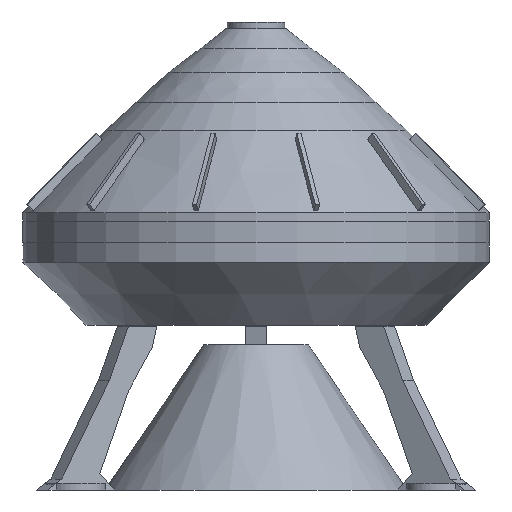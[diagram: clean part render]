
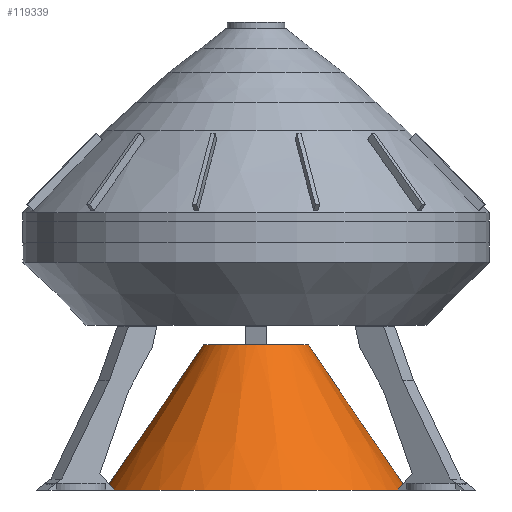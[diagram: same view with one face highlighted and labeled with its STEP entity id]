
A CAD part, front view. The second image highlights one B-rep face of the part: STEP entity #119339.
In plain terms, the highlighted conical face has half-angle 34.186 degrees and reference radius 55 mm.
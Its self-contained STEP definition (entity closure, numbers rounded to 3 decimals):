
#119306 = EDGE_CURVE('',#119307,#119307,#119309,.T.);
#119307 = VERTEX_POINT('',#119308);
#119308 = CARTESIAN_POINT('',(55.,0.,0.));
#119309 = SURFACE_CURVE('',#119310,(#119315,#119327),.PCURVE_S1.);
#119310 = CIRCLE('',#119311,55.);
#119311 = AXIS2_PLACEMENT_3D('',#119312,#119313,#119314);
#119312 = CARTESIAN_POINT('',(0.,0.,0.));
#119313 = DIRECTION('',(0.,0.,1.));
#119314 = DIRECTION('',(1.,0.,-0.));
#119315 = PCURVE('',#119316,#119321);
#119316 = PLANE('',#119317);
#119317 = AXIS2_PLACEMENT_3D('',#119318,#119319,#119320);
#119318 = CARTESIAN_POINT('',(0.,0.,0.));
#119319 = DIRECTION('',(0.,0.,1.));
#119320 = DIRECTION('',(1.,0.,-0.));
#119321 = DEFINITIONAL_REPRESENTATION('',(#119322),#119326);
#119322 = CIRCLE('',#119323,55.);
#119323 = AXIS2_PLACEMENT_2D('',#119324,#119325);
#119324 = CARTESIAN_POINT('',(0.,0.));
#119325 = DIRECTION('',(1.,-0.));
#119326 = ( GEOMETRIC_REPRESENTATION_CONTEXT(2) 
PARAMETRIC_REPRESENTATION_CONTEXT() REPRESENTATION_CONTEXT('2D SPACE',''
  ) );
#119327 = PCURVE('',#119328,#119333);
#119328 = CONICAL_SURFACE('',#119329,55.,0.597);
#119329 = AXIS2_PLACEMENT_3D('',#119330,#119331,#119332);
#119330 = CARTESIAN_POINT('',(0.,0.,0.));
#119331 = DIRECTION('',(-0.,-0.,-1.));
#119332 = DIRECTION('',(1.,0.,-0.));
#119333 = DEFINITIONAL_REPRESENTATION('',(#119334),#119338);
#119334 = LINE('',#119335,#119336);
#119335 = CARTESIAN_POINT('',(-0.,-0.));
#119336 = VECTOR('',#119337,1.);
#119337 = DIRECTION('',(-1.,-0.));
#119338 = ( GEOMETRIC_REPRESENTATION_CONTEXT(2) 
PARAMETRIC_REPRESENTATION_CONTEXT() REPRESENTATION_CONTEXT('2D SPACE',''
  ) );
#119339 = ADVANCED_FACE('',(#119340),#119328,.T.);
#119340 = FACE_BOUND('',#119341,.T.);
#119341 = EDGE_LOOP('',(#119342,#119343,#119366,#119393));
#119342 = ORIENTED_EDGE('',*,*,#119306,.T.);
#119343 = ORIENTED_EDGE('',*,*,#119344,.T.);
#119344 = EDGE_CURVE('',#119307,#119345,#119347,.T.);
#119345 = VERTEX_POINT('',#119346);
#119346 = CARTESIAN_POINT('',(19.,0.,53.));
#119347 = SEAM_CURVE('',#119348,(#119352,#119359),.PCURVE_S1.);
#119348 = LINE('',#119349,#119350);
#119349 = CARTESIAN_POINT('',(55.,0.,0.));
#119350 = VECTOR('',#119351,1.);
#119351 = DIRECTION('',(-0.562,0.,0.827));
#119352 = PCURVE('',#119328,#119353);
#119353 = DEFINITIONAL_REPRESENTATION('',(#119354),#119358);
#119354 = LINE('',#119355,#119356);
#119355 = CARTESIAN_POINT('',(-0.,-0.));
#119356 = VECTOR('',#119357,1.);
#119357 = DIRECTION('',(-0.,-1.));
#119358 = ( GEOMETRIC_REPRESENTATION_CONTEXT(2) 
PARAMETRIC_REPRESENTATION_CONTEXT() REPRESENTATION_CONTEXT('2D SPACE',''
  ) );
#119359 = PCURVE('',#119328,#119360);
#119360 = DEFINITIONAL_REPRESENTATION('',(#119361),#119365);
#119361 = LINE('',#119362,#119363);
#119362 = CARTESIAN_POINT('',(-6.283,-0.));
#119363 = VECTOR('',#119364,1.);
#119364 = DIRECTION('',(-0.,-1.));
#119365 = ( GEOMETRIC_REPRESENTATION_CONTEXT(2) 
PARAMETRIC_REPRESENTATION_CONTEXT() REPRESENTATION_CONTEXT('2D SPACE',''
  ) );
#119366 = ORIENTED_EDGE('',*,*,#119367,.F.);
#119367 = EDGE_CURVE('',#119345,#119345,#119368,.T.);
#119368 = SURFACE_CURVE('',#119369,(#119374,#119381),.PCURVE_S1.);
#119369 = CIRCLE('',#119370,19.);
#119370 = AXIS2_PLACEMENT_3D('',#119371,#119372,#119373);
#119371 = CARTESIAN_POINT('',(0.,0.,53.));
#119372 = DIRECTION('',(0.,0.,1.));
#119373 = DIRECTION('',(1.,0.,-0.));
#119374 = PCURVE('',#119328,#119375);
#119375 = DEFINITIONAL_REPRESENTATION('',(#119376),#119380);
#119376 = LINE('',#119377,#119378);
#119377 = CARTESIAN_POINT('',(-0.,-53.));
#119378 = VECTOR('',#119379,1.);
#119379 = DIRECTION('',(-1.,-0.));
#119380 = ( GEOMETRIC_REPRESENTATION_CONTEXT(2) 
PARAMETRIC_REPRESENTATION_CONTEXT() REPRESENTATION_CONTEXT('2D SPACE',''
  ) );
#119381 = PCURVE('',#119382,#119387);
#119382 = PLANE('',#119383);
#119383 = AXIS2_PLACEMENT_3D('',#119384,#119385,#119386);
#119384 = CARTESIAN_POINT('',(0.,0.,53.));
#119385 = DIRECTION('',(0.,0.,1.));
#119386 = DIRECTION('',(1.,0.,-0.));
#119387 = DEFINITIONAL_REPRESENTATION('',(#119388),#119392);
#119388 = CIRCLE('',#119389,19.);
#119389 = AXIS2_PLACEMENT_2D('',#119390,#119391);
#119390 = CARTESIAN_POINT('',(0.,0.));
#119391 = DIRECTION('',(1.,0.));
#119392 = ( GEOMETRIC_REPRESENTATION_CONTEXT(2) 
PARAMETRIC_REPRESENTATION_CONTEXT() REPRESENTATION_CONTEXT('2D SPACE',''
  ) );
#119393 = ORIENTED_EDGE('',*,*,#119344,.F.);
